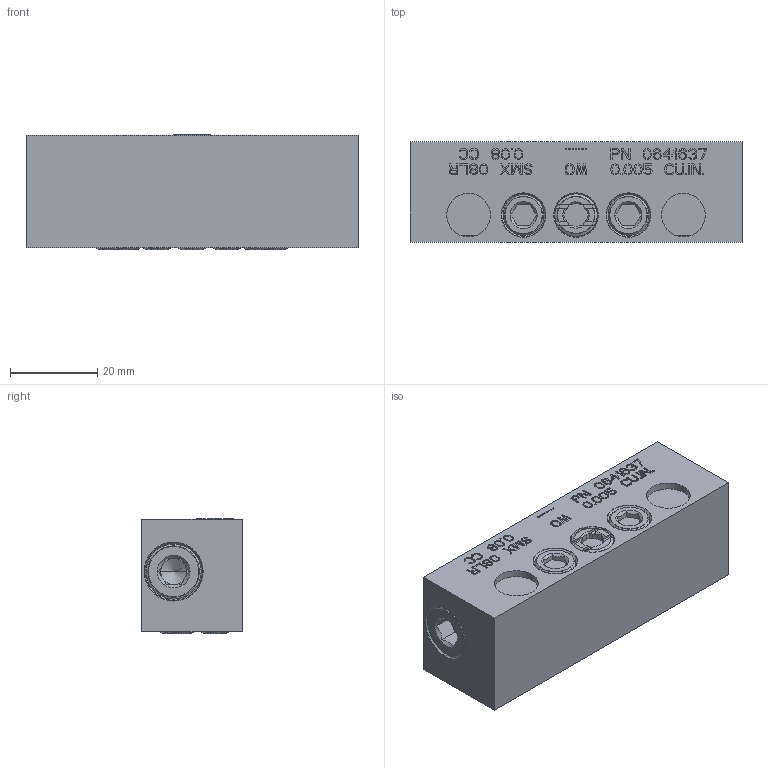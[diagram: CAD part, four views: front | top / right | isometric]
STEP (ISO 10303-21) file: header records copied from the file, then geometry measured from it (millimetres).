
FILE_DESCRIPTION((''),'2;1');
FILE_NAME('0641637_SMX_08LR','2023-07-21T11:51:22',('pietro.masciave'),(''),'CREO PARAMETRIC BY PTC INC, 2022281','CREO PARAMETRIC BY PTC INC, 2022281','');
FILE_SCHEMA(('CONFIG_CONTROL_DESIGN'));
Length unit declared in the file: millimetre
Products named in the file (1): 0641637_SMX_08LR
Bounding box: 76 x 23 x 26.33 mm (x, y, z)
Volume: 44003.2 mm3; surface area: 12678.8 mm2
Topology: 1 solids, 14 shells, 1443 faces, 3998 edges, 2657 vertices
Faces by surface type: plane 1267, cylinder 110, cone 44, torus 22
Entity records: 46564 total; most frequent: CARTESIAN_POINT 9404, ORIENTED_EDGE 7948, DIRECTION 7163, EDGE_CURVE 3994, VECTOR 3559, LINE 3559, VERTEX_POINT 2657, AXIS2_PLACEMENT_3D 1802
